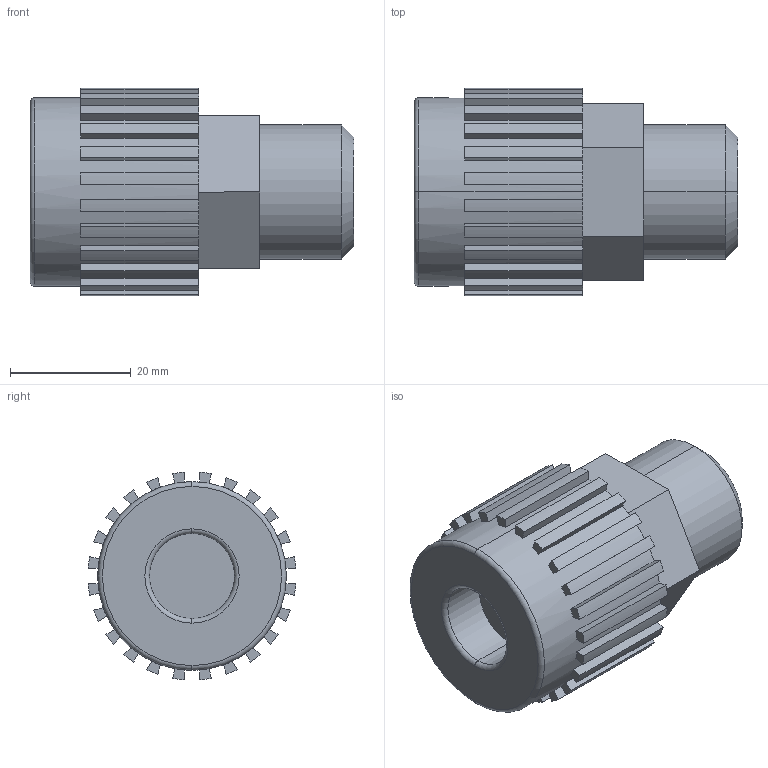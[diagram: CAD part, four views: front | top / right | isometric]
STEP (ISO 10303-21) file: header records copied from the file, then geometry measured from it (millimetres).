
FILE_DESCRIPTION (( 'STEP AP214' ), '1' );
FILE_NAME ('Fitting Pillar S-300 08 .STEP', '2012-09-28T19:47:53', ( '' ), ( '' ), 'SwSTEP 2.0', 'SolidWorks 2012', '' );
FILE_SCHEMA (( 'AUTOMOTIVE_DESIGN' ));
Length unit declared in the file: inch
Products named in the file (1): Fitting Pillar S-300 08 
Bounding box: 53.7 x 34.45 x 34.45 mm (x, y, z)
Volume: 33079.3 mm3; surface area: 8376.8 mm2
Topology: 1 solids, 1 shells, 119 faces, 336 edges, 222 vertices
Faces by surface type: plane 83, cylinder 30, torus 4, cone 2
Entity records: 4076 total; most frequent: DIRECTION 694, CARTESIAN_POINT 678, ORIENTED_EDGE 672, EDGE_CURVE 336, AXIS2_PLACEMENT_3D 238, VERTEX_POINT 222, LINE 218, VECTOR 218
